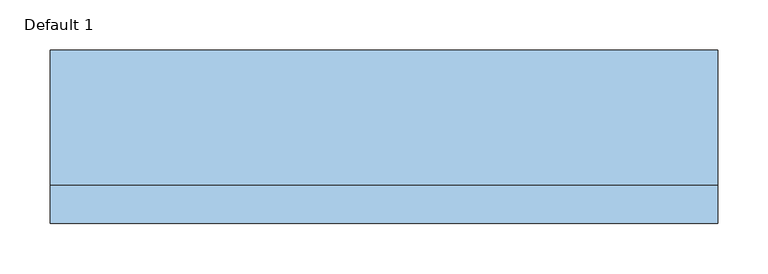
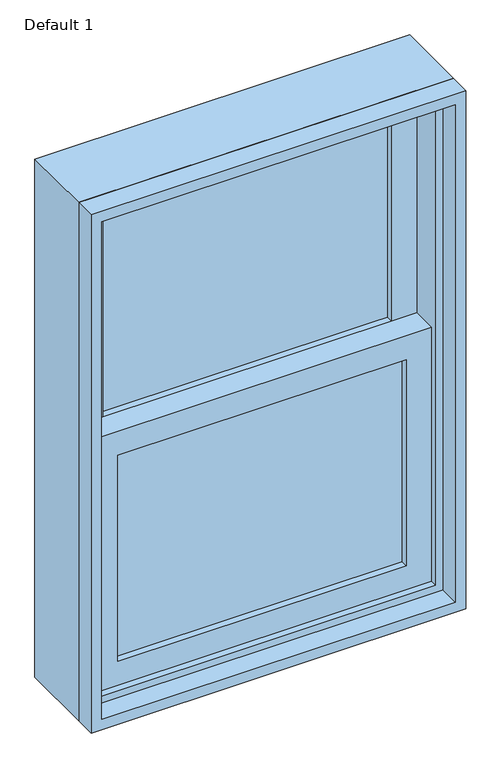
"""IFC4 building model written with IfcOpenShell, lengths in millimetres: window geometry, Planitar-Double-Hung-Single : Default 1."""

import ifcopenshell
import ifcopenshell.guid

model = None  # the IFC model being written
_history = None  # IfcOwnerHistory: only IFC2X3 demands one
_inside = {}  # id of a spatial element -> (the spatial element, [elements in it])
_under = {}  # id of a project, library or spatial element -> (it, [spatial elements below it])
_declared = {}  # id of a project -> (the project, [libraries it declares])
_typed = {}  # id of a type object -> (the type object, [elements of that type])
_made_of = {}  # id of a material, layer set ... -> (it, [elements and type objects made of it])


def new_model(schema):
    """Start an empty IFC model of exactly this schema.

    Asked for "IFC4X3", IfcOpenShell would pick the latest addendum, in which some entities
    have other attributes; the version numbers below select the first issue.
    IFC2X3 requires an IfcOwnerHistory on every rooted entity: one is made here for all.
    """
    global model, _history
    if schema == "IFC4X3":
        model = ifcopenshell.file(schema_version=(4, 3, 0, 0))
    else:
        model = ifcopenshell.file(schema=schema)
    _inside.clear()
    _under.clear()
    _declared.clear()
    _typed.clear()
    _made_of.clear()
    _history = None
    if model.schema == "IFC2X3":
        org = make("IfcOrganization", Name="unknown")
        user = make(
            "IfcPersonAndOrganization",
            ThePerson=make("IfcPerson", FamilyName="unknown"),
            TheOrganization=org,
        )
        app = make(
            "IfcApplication",
            ApplicationDeveloper=org,
            Version="unknown",
            ApplicationFullName="unknown",
            ApplicationIdentifier="unknown",
        )
        _history = make(
            "IfcOwnerHistory",
            OwningUser=user,
            OwningApplication=app,
            ChangeAction="ADDED",
            CreationDate=0,
        )
    return model


def make(cls, **values):
    """One entity of the class cls with the attributes given. An attribute that is None is left unset."""
    return model.create_entity(
        cls, **{name: value for name, value in values.items() if value is not None}
    )


def rooted(cls, **values):
    """An entity with a GlobalId (a new one), such as an element, a storey or a relation."""
    return make(cls, GlobalId=ifcopenshell.guid.new(), OwnerHistory=_history, **values)


def si_unit(unit_type, name, prefix=None):
    """IfcSIUnit, for example si_unit("LENGTHUNIT", "METRE", prefix="MILLI")."""
    return make("IfcSIUnit", UnitType=unit_type, Prefix=prefix, Name=name)


def assignment(units):
    """IfcUnitAssignment: the units of a project."""
    return None if units is None else make("IfcUnitAssignment", Units=units)


def point(xyz):
    """IfcCartesianPoint."""
    return None if xyz is None else make("IfcCartesianPoint", Coordinates=xyz)


def direction(xyz):
    """IfcDirection."""
    return None if xyz is None else make("IfcDirection", DirectionRatios=xyz)


def frame(location, z_axis=None, x_axis=None):
    """IfcAxis2Placement3D, a coordinate frame: its origin and axes. An axis left out is left unset."""
    return make(
        "IfcAxis2Placement3D",
        Location=point(location),
        Axis=direction(z_axis),
        RefDirection=direction(x_axis),
    )


def origin():
    """The frame at (0, 0, 0) with its axes left unset."""
    return frame((0.0, 0.0, 0.0))


def place(relative_to, where):
    """IfcLocalPlacement: puts the frame where relative to a parent placement (None: the world)."""
    return make(
        "IfcLocalPlacement", PlacementRelTo=relative_to, RelativePlacement=where
    )


def context(
    kind, dimensions, precision=None, world=None, true_north=None, identifier=None
):
    """IfcGeometricRepresentationContext, for example the 3D "Model" context."""
    return make(
        "IfcGeometricRepresentationContext",
        ContextIdentifier=identifier,
        ContextType=kind,
        CoordinateSpaceDimension=dimensions,
        Precision=precision,
        WorldCoordinateSystem=world,
        TrueNorth=true_north,
    )


def project(units=None, contexts=None):
    """IfcProject with its units and contexts."""
    return rooted(
        "IfcProject",
        Name="project",
        RepresentationContexts=contexts,
        UnitsInContext=assignment(units),
    )


def spatial(cls, under=None, at=None, **own):
    """A site, building, storey or space (cls), placed at a placement, below another one or the project."""
    s = rooted(cls, ObjectPlacement=at, **own)
    if under is not None:
        _under.setdefault(under.id(), (under, []))[1].append(s)
    return s


def polyline(points):
    """IfcPolyline through the points."""
    return make("IfcPolyline", Points=[point(p) for p in points])


def outline(outer, holes=None, kind="AREA"):
    """IfcArbitraryClosedProfileDef: a profile drawn as a closed curve; with holes, ...WithVoids."""
    if holes is None:
        return make("IfcArbitraryClosedProfileDef", ProfileType=kind, OuterCurve=outer)
    return make(
        "IfcArbitraryProfileDefWithVoids",
        ProfileType=kind,
        OuterCurve=outer,
        InnerCurves=holes,
    )


def extrude(swept, where, along, depth):
    """IfcExtrudedAreaSolid: the profile swept, set in the frame where, extruded along a direction by depth."""
    return make(
        "IfcExtrudedAreaSolid",
        SweptArea=swept,
        Position=where,
        ExtrudedDirection=direction(along),
        Depth=depth,
    )


def shape(context_of_items, identifier, shape_type, items):
    """IfcShapeRepresentation: the items that make up one representation, for example the "Body"."""
    return make(
        "IfcShapeRepresentation",
        ContextOfItems=context_of_items,
        RepresentationIdentifier=identifier,
        RepresentationType=shape_type,
        Items=items,
    )


def source(mapping_origin, context_of_items, identifier, shape_type, items):
    """IfcRepresentationMap: a shape defined once, which mapped items show again and again."""
    return make(
        "IfcRepresentationMap",
        MappingOrigin=mapping_origin,
        MappedRepresentation=shape(context_of_items, identifier, shape_type, items),
    )


def transform(
    local_origin,
    x_axis=None,
    y_axis=None,
    z_axis=None,
    scale=None,
    scale2=None,
    scale3=None,
    uniform=True,
):
    """IfcCartesianTransformationOperator3D, or its non-uniform kind. x_axis, y_axis, z_axis: its Axis1, 2, 3."""
    if uniform:
        return make(
            "IfcCartesianTransformationOperator3D",
            Axis1=direction(x_axis),
            Axis2=direction(y_axis),
            LocalOrigin=point(local_origin),
            Scale=scale,
            Axis3=direction(z_axis),
        )
    return make(
        "IfcCartesianTransformationOperator3DnonUniform",
        Axis1=direction(x_axis),
        Axis2=direction(y_axis),
        LocalOrigin=point(local_origin),
        Scale=scale,
        Axis3=direction(z_axis),
        Scale2=scale2,
        Scale3=scale3,
    )


def mapped(mapping_source, mapping_target):
    """IfcMappedItem: shows the shape of a source again, moved by a transform."""
    return make(
        "IfcMappedItem", MappingSource=mapping_source, MappingTarget=mapping_target
    )


def made_of(thing, what):
    """Note that an element or type object is made of a material, layer set ...; save() writes the relation."""
    if what is not None:
        _made_of.setdefault(what.id(), (what, []))[1].append(thing)
    return thing


def element(
    cls,
    number,
    at=None,
    inside=None,
    cuts=None,
    type_object=None,
    material=None,
    context=None,
    identifier="Body",
    shape_type=None,
    held_by="IfcProductDefinitionShape",
    body=None,
    shapes=None,
    **own,
):
    """One element of the class cls, such as IfcWall. Its Tag is "e" and its number.

    at: its placement. inside: the storey or other place that contains it. cuts: it is an
    opening in that element (IfcRelVoidsElement). A single representation is given by context,
    identifier, shape_type and body (its items); several are given by shapes. held_by: the class
    of the entity that holds the representations. save() writes the other relations.
    """
    e = rooted(cls, Tag="e%d" % number, ObjectPlacement=at, **own)
    if body is not None:
        shapes = [shape(context, identifier, shape_type, body)]
    if shapes is not None:
        e.Representation = make(held_by, Representations=shapes)
    if inside is not None:
        _inside.setdefault(inside.id(), (inside, []))[1].append(e)
    if cuts is not None:
        rooted(
            "IfcRelVoidsElement", RelatingBuildingElement=cuts, RelatedOpeningElement=e
        )
    if type_object is not None:
        _typed.setdefault(type_object.id(), (type_object, []))[1].append(e)
    return made_of(e, material)


def aggregate(whole, parts):
    """IfcRelAggregates: a whole, such as a stair, and the parts it consists of."""
    return rooted("IfcRelAggregates", RelatingObject=whole, RelatedObjects=parts)


def save(model, path):
    """Write the relations noted so far, then the file.

    IfcRelAggregates (storeys below a building ...), IfcRelContainedInSpatialStructure (elements
    in a storey), IfcRelDefinesByType, IfcRelAssociatesMaterial and IfcRelDeclares: one each for
    every whole, place, type object, material and project.
    """
    for whole, parts in _under.values():
        aggregate(whole, parts)
    for where, things in _inside.values():
        rooted(
            "IfcRelContainedInSpatialStructure",
            RelatedElements=things,
            RelatingStructure=where,
        )
    for kind, things in _typed.values():
        rooted("IfcRelDefinesByType", RelatedObjects=things, RelatingType=kind)
    for what, things in _made_of.values():
        rooted("IfcRelAssociatesMaterial", RelatedObjects=things, RelatingMaterial=what)
    for by, libraries in _declared.values():
        rooted("IfcRelDeclares", RelatingContext=by, RelatedDefinitions=libraries)
    model.write(path)


def default_1_4d738490(model_context):
    return source(origin(), model_context, "Body", "SweptSolid", [
        extrude(outline(polyline([(254.0, 6.35), (254.0, 0.0), (-254.0, 0.0), (-254.0, 6.35), (254.0, 6.35)])), frame((0.0, 0.0, 990.6), z_axis=(0.0, 0.0, 1.0), x_axis=(1.0, 0.0, 0.0)), (0.0, 0.0, 1.0), 384.175),
        extrude(outline(polyline([(-254.0, -6.35), (254.0, -6.35), (254.0, -12.7), (-254.0, -12.7), (-254.0, -6.35)])), frame((0.0, 0.0, 990.6), z_axis=(0.0, 0.0, 1.0), x_axis=(1.0, 0.0, 0.0)), (0.0, 0.0, 1.0), 384.175),
        extrude(outline(polyline([(254.0, 50.8), (254.0, 44.45), (-254.0, 44.45), (-254.0, 50.8), (254.0, 50.8)])), frame((0.0, 0.0, 1419.225), z_axis=(0.0, 0.0, 1.0), x_axis=(1.0, 0.0, 0.0)), (0.0, 0.0, 1.0), 384.175),
        extrude(outline(polyline([(-254.0, 38.1), (254.0, 38.1), (254.0, 31.75), (-254.0, 31.75), (-254.0, 38.1)])), frame((0.0, 0.0, 1419.225), z_axis=(0.0, 0.0, 1.0), x_axis=(1.0, 0.0, 0.0)), (0.0, 0.0, 1.0), 384.175),
        extrude(outline(polyline([(1419.225, -298.45), (946.15, -298.45), (946.15, 298.45), (1419.225, 298.45), (1419.225, -298.45)]), holes=[polyline([(1374.775, 254.0), (990.6, 254.0), (990.6, -254.0), (1374.775, -254.0), (1374.775, 254.0)])]), frame((0.0, -25.4, 0.0), z_axis=(0.0, 1.0, 0.0), x_axis=(0.0, 0.0, 1.0)), (0.0, 0.0, 1.0), 44.45),
        extrude(outline(polyline([(1847.85, -298.45), (1374.775, -298.45), (1374.775, 298.45), (1847.85, 298.45), (1847.85, -298.45)]), holes=[polyline([(1803.4, 254.0), (1419.225, 254.0), (1419.225, -254.0), (1803.4, -254.0), (1803.4, 254.0)])]), frame((0.0, 19.05, 0.0), z_axis=(0.0, 1.0, 0.0), x_axis=(0.0, 0.0, 1.0)), (0.0, 0.0, 1.0), 44.45),
        extrude(outline(polyline([(1879.6, -330.2), (914.4, -330.2), (914.4, 330.2), (1879.6, 330.2), (1879.6, -330.2)]), holes=[polyline([(1847.85, 298.45), (946.15, 298.45), (946.15, -298.45), (1847.85, -298.45), (1847.85, 298.45)])]), frame((0.0, -38.1, 0.0), z_axis=(0.0, 1.0, 0.0), x_axis=(0.0, 0.0, 1.0)), (0.0, 0.0, 1.0), 133.35),
        extrude(outline(polyline([(1879.6, 330.2), (1879.6, -330.2), (914.4, -330.2), (914.4, 330.2), (1879.6, 330.2)]), holes=[polyline([(1860.55, 311.15), (933.45, 311.15), (933.45, -311.15), (1860.55, -311.15), (1860.55, 311.15)])]), frame((0.0, -76.2, 0.0), z_axis=(0.0, 1.0, 0.0), x_axis=(0.0, 0.0, 1.0)), (0.0, 0.0, 1.0), 38.1),
    ])


if __name__ == "__main__":
    model = new_model("IFC4")
    model_context = context("Model", 3, world=origin())
    ifc_project = project(units=[si_unit("LENGTHUNIT", "METRE", prefix="MILLI")], contexts=[model_context])
    site = spatial("IfcSite", under=ifc_project)
    building = spatial("IfcBuilding", under=site)
    placement = place(None, origin())
    default_1_shape = default_1_4d738490(model_context)
    element("IfcWindow", 1, ObjectType="Planitar-Double-Hung-Single : Default 1", at=placement, inside=building, context=model_context, shape_type="MappedRepresentation", body=[
        mapped(default_1_shape, transform((0.0, 0.0, 0.0), x_axis=(1.0, 0.0, 0.0), y_axis=(0.0, 1.0, 0.0), z_axis=(0.0, 0.0, 1.0))),
    ])
    save(model, "model.ifc")
